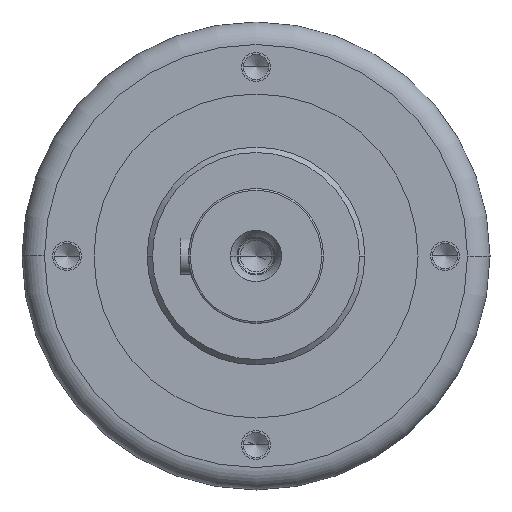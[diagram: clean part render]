
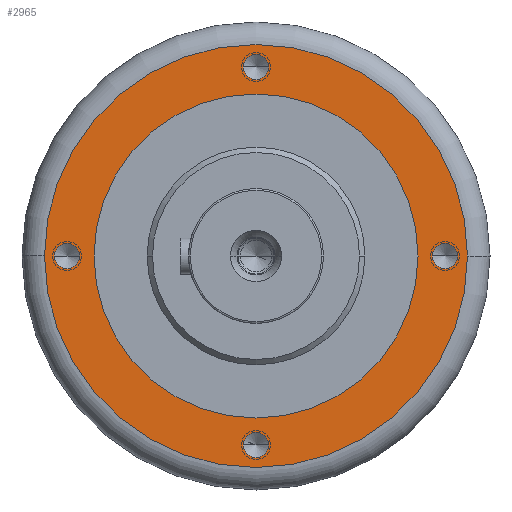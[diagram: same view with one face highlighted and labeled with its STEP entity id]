
A CAD part, left-side view. The second image highlights one B-rep face of the part: STEP entity #2965.
In plain terms, the highlighted planar face has unit normal (-1, 0, 0).
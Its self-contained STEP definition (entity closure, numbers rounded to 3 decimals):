
#2305=CARTESIAN_POINT('',(0.,0.,-105.));
#2306=DIRECTION('',(-1.,0.,0.));
#2307=DIRECTION('',(0.,1.,0.));
#2308=AXIS2_PLACEMENT_3D('',#2305,#2306,#2307);
#2310=CARTESIAN_POINT('',(0.,0.,-105.));
#2311=DIRECTION('',(-1.,0.,0.));
#2312=DIRECTION('',(0.,-1.,0.));
#2313=AXIS2_PLACEMENT_3D('',#2310,#2311,#2312);
#2315=CARTESIAN_POINT('',(0.,-105.,0.));
#2316=DIRECTION('',(-1.,0.,0.));
#2317=DIRECTION('',(0.,1.,0.));
#2318=AXIS2_PLACEMENT_3D('',#2315,#2316,#2317);
#2320=CARTESIAN_POINT('',(0.,-105.,0.));
#2321=DIRECTION('',(-1.,0.,0.));
#2322=DIRECTION('',(0.,-1.,0.));
#2323=AXIS2_PLACEMENT_3D('',#2320,#2321,#2322);
#2325=CARTESIAN_POINT('',(0.,0.,105.));
#2326=DIRECTION('',(-1.,0.,0.));
#2327=DIRECTION('',(0.,1.,0.));
#2328=AXIS2_PLACEMENT_3D('',#2325,#2326,#2327);
#2330=CARTESIAN_POINT('',(0.,0.,105.));
#2331=DIRECTION('',(-1.,0.,0.));
#2332=DIRECTION('',(0.,-1.,0.));
#2333=AXIS2_PLACEMENT_3D('',#2330,#2331,#2332);
#2335=CARTESIAN_POINT('',(0.,0.,0.));
#2336=DIRECTION('',(-1.,0.,0.));
#2337=DIRECTION('',(0.,1.,0.));
#2338=AXIS2_PLACEMENT_3D('',#2335,#2336,#2337);
#2340=CARTESIAN_POINT('',(0.,0.,0.));
#2341=DIRECTION('',(-1.,0.,0.));
#2342=DIRECTION('',(0.,-1.,0.));
#2343=AXIS2_PLACEMENT_3D('',#2340,#2341,#2342);
#2345=CARTESIAN_POINT('',(0.,105.,0.));
#2346=DIRECTION('',(-1.,0.,0.));
#2347=DIRECTION('',(0.,1.,0.));
#2348=AXIS2_PLACEMENT_3D('',#2345,#2346,#2347);
#2350=CARTESIAN_POINT('',(0.,105.,0.));
#2351=DIRECTION('',(-1.,0.,0.));
#2352=DIRECTION('',(0.,-1.,0.));
#2353=AXIS2_PLACEMENT_3D('',#2350,#2351,#2352);
#2433=CARTESIAN_POINT('',(0.,0.,0.));
#2434=DIRECTION('',(1.,0.,0.));
#2435=DIRECTION('',(0.,1.,0.));
#2436=AXIS2_PLACEMENT_3D('',#2433,#2434,#2435);
#2446=CARTESIAN_POINT('',(0.,0.,0.));
#2447=DIRECTION('',(-1.,0.,0.));
#2448=DIRECTION('',(0.,1.,0.));
#2449=AXIS2_PLACEMENT_3D('',#2446,#2447,#2448);
#2801=CARTESIAN_POINT('',(0.,90.,0.));
#2803=VERTEX_POINT('',#2801);
#2809=CARTESIAN_POINT('',(0.,-90.,0.));
#2811=VERTEX_POINT('',#2809);
#2825=CARTESIAN_POINT('',(0.,117.5,0.));
#2826=CARTESIAN_POINT('',(0.,-117.5,0.));
#2827=VERTEX_POINT('',#2825);
#2828=VERTEX_POINT('',#2826);
#2851=CARTESIAN_POINT('',(0.,112.,0.));
#2852=CARTESIAN_POINT('',(0.,98.,0.));
#2853=VERTEX_POINT('',#2851);
#2854=VERTEX_POINT('',#2852);
#2861=CARTESIAN_POINT('',(0.,7.,105.));
#2862=CARTESIAN_POINT('',(0.,-7.,105.));
#2863=VERTEX_POINT('',#2861);
#2864=VERTEX_POINT('',#2862);
#2871=CARTESIAN_POINT('',(0.,-98.,0.));
#2872=CARTESIAN_POINT('',(0.,-112.,0.));
#2873=VERTEX_POINT('',#2871);
#2874=VERTEX_POINT('',#2872);
#2881=CARTESIAN_POINT('',(0.,7.,-105.));
#2882=CARTESIAN_POINT('',(0.,-7.,-105.));
#2883=VERTEX_POINT('',#2881);
#2884=VERTEX_POINT('',#2882);
#2924=CARTESIAN_POINT('',(0.,0.,0.));
#2925=DIRECTION('',(1.,0.,0.));
#2926=DIRECTION('',(0.,-1.,0.));
#2927=AXIS2_PLACEMENT_3D('',#2924,#2925,#2926);
#2928=PLANE('',#2927);
#2930=ORIENTED_EDGE('',*,*,#2929,.F.);
#2932=ORIENTED_EDGE('',*,*,#2931,.F.);
#2933=EDGE_LOOP('',(#2930,#2932));
#2934=FACE_OUTER_BOUND('',#2933,.F.);
#2936=ORIENTED_EDGE('',*,*,#2935,.T.);
#2938=ORIENTED_EDGE('',*,*,#2937,.T.);
#2939=EDGE_LOOP('',(#2936,#2938));
#2940=FACE_BOUND('',#2939,.F.);
#2942=ORIENTED_EDGE('',*,*,#2941,.T.);
#2944=ORIENTED_EDGE('',*,*,#2943,.T.);
#2945=EDGE_LOOP('',(#2942,#2944));
#2946=FACE_BOUND('',#2945,.F.);
#2948=ORIENTED_EDGE('',*,*,#2947,.F.);
#2950=ORIENTED_EDGE('',*,*,#2949,.T.);
#2951=EDGE_LOOP('',(#2948,#2950));
#2952=FACE_BOUND('',#2951,.F.);
#2954=ORIENTED_EDGE('',*,*,#2953,.T.);
#2956=ORIENTED_EDGE('',*,*,#2955,.T.);
#2957=EDGE_LOOP('',(#2954,#2956));
#2958=FACE_BOUND('',#2957,.F.);
#2960=ORIENTED_EDGE('',*,*,#2959,.T.);
#2962=ORIENTED_EDGE('',*,*,#2961,.T.);
#2963=EDGE_LOOP('',(#2960,#2962));
#2964=FACE_BOUND('',#2963,.F.);
#2965=ADVANCED_FACE('',(#2934,#2940,#2946,#2952,#2958,#2964),#2928,.F.);
#2309=CIRCLE('',#2308,7.);
#2314=CIRCLE('',#2313,7.);
#2319=CIRCLE('',#2318,7.);
#2324=CIRCLE('',#2323,7.);
#2329=CIRCLE('',#2328,7.);
#2334=CIRCLE('',#2333,7.);
#2339=CIRCLE('',#2338,117.5);
#2344=CIRCLE('',#2343,117.5);
#2349=CIRCLE('',#2348,7.);
#2354=CIRCLE('',#2353,7.);
#2437=CIRCLE('',#2436,90.);
#2450=CIRCLE('',#2449,90.);
#2929=EDGE_CURVE('',#2827,#2828,#2339,.T.);
#2931=EDGE_CURVE('',#2828,#2827,#2344,.T.);
#2935=EDGE_CURVE('',#2873,#2874,#2319,.T.);
#2937=EDGE_CURVE('',#2874,#2873,#2324,.T.);
#2941=EDGE_CURVE('',#2863,#2864,#2329,.T.);
#2943=EDGE_CURVE('',#2864,#2863,#2334,.T.);
#2947=EDGE_CURVE('',#2803,#2811,#2437,.T.);
#2949=EDGE_CURVE('',#2803,#2811,#2450,.T.);
#2953=EDGE_CURVE('',#2883,#2884,#2309,.T.);
#2955=EDGE_CURVE('',#2884,#2883,#2314,.T.);
#2959=EDGE_CURVE('',#2853,#2854,#2349,.T.);
#2961=EDGE_CURVE('',#2854,#2853,#2354,.T.);
